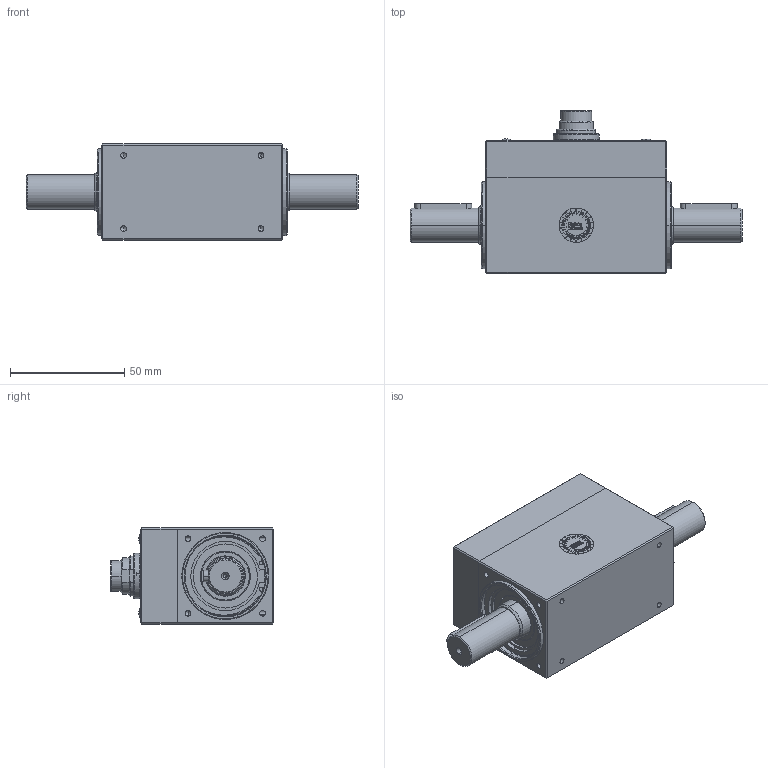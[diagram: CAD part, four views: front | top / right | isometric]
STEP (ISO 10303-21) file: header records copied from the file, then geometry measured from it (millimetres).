
FILE_DESCRIPTION (( 'STEP AP214' ), '1' );
FILE_NAME ('DRVL-II-K.STEP', '2020-08-28T07:25:12', ( '' ), ( '' ), 'SwSTEP 2.0', 'SolidWorks 2020', '' );
FILE_SCHEMA (( 'AUTOMOTIVE_DESIGN' ));
Length unit declared in the file: millimetre
Products named in the file (1): DRVL-II-K
Bounding box: 145 x 71.1 x 42.22 mm (x, y, z)
Volume: 122078.5 mm3; surface area: 74175.4 mm2
Topology: 30 solids, 54 shells, 3114 faces, 8377 edges, 5507 vertices
Faces by surface type: plane 1415, bspline 924, cylinder 382, cone 157, torus 130, sphere 106
Entity records: 170487 total; most frequent: CARTESIAN_POINT 64971, ORIENTED_EDGE 16210, DIRECTION 11701, EDGE_CURVE 8105, VERTEX_POINT 5363, LINE 4661, VECTOR 4661, AXIS2_PLACEMENT_3D 3520
